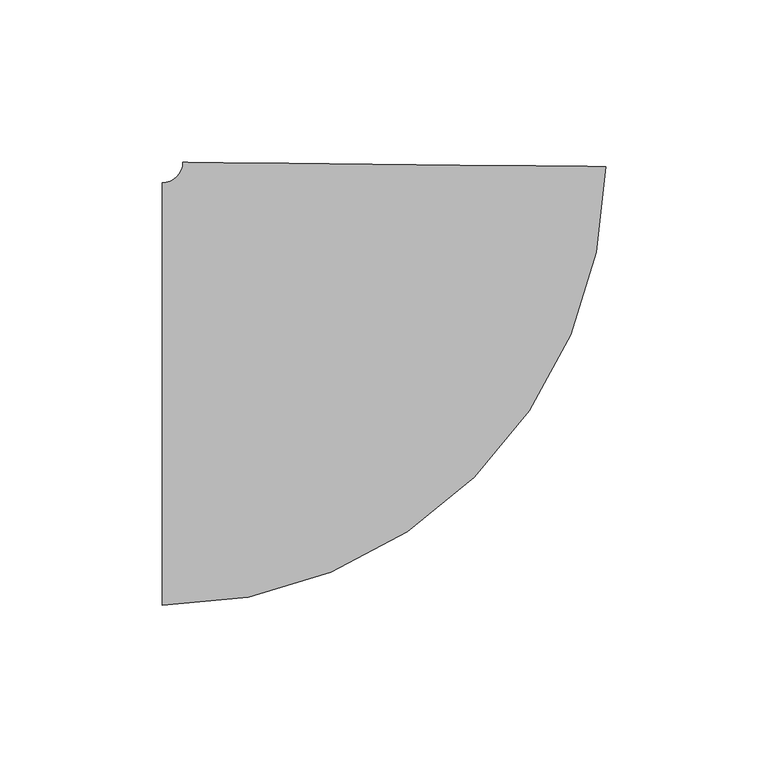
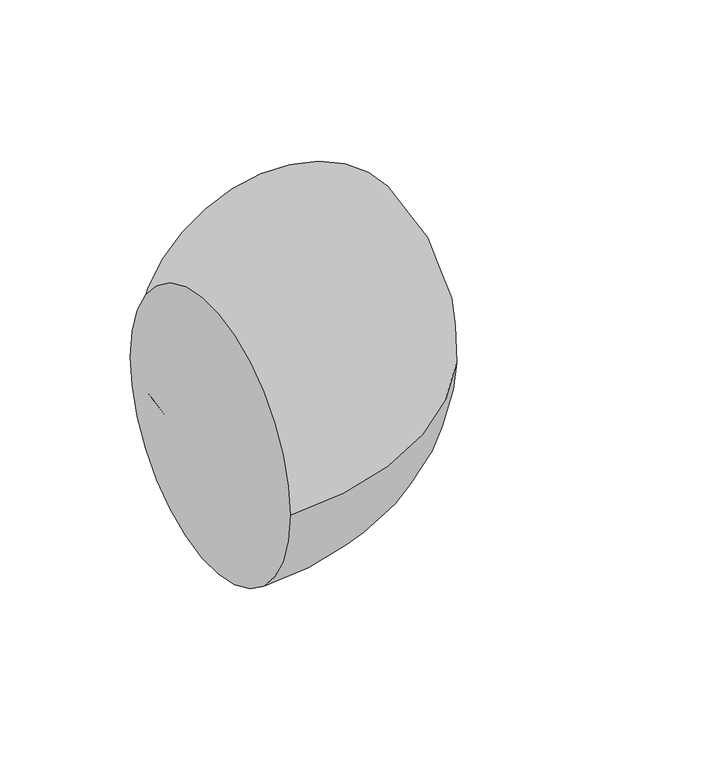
"""IFC4 building model written with IfcOpenShell, lengths in millimetres: pipe fitting geometry, M_Codo - Genérico : Estándar."""

from ifc_helpers import new_model, si_unit, point, frame, origin, place, context, project, spatial, circle_curve, ellipse_curve, trimmed, source, transform, mapped, element, save
from ifc_brep_helpers import plane_surface, revolved_surface, advanced_brep


def pipe_fitting_b362e658(model_context):
    return source(origin(), model_context, "Body", "AdvancedBrep", [
        advanced_brep(
        [(-70.7261027, -65.0875, 0.0), (-70.7261027, 65.0875, 0.0), (65.79206, 70.0711717, 0.0), (-64.3764208, 71.3739498, 0.0)],
        [
            (0, 1, circle_curve(frame((-70.7261027, 0.0, 0.0), z_axis=(-1.0, 0.0, 0.0), x_axis=(0.0, 1.0, 0.0)), 65.0875)),
            (1, 0, circle_curve(frame((-70.7261027, 0.0, 0.0), z_axis=(-1.0, 0.0, 0.0), x_axis=(0.0, 1.0, 0.0)), 65.0875)),
            (2, 3, circle_curve(frame((0.7078196, 70.7225608, 0.0), z_axis=(0.010007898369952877, 0.9999499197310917, 0.0), x_axis=(-0.9999499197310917, 0.010007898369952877, 0.0)), 65.0875)),
            (3, 2, circle_curve(frame((0.7078196, 70.7225608, 0.0), z_axis=(0.010007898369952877, 0.9999499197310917, 0.0), x_axis=(-0.9999499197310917, 0.010007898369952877, 0.0)), 65.0875)),
            (3, 1, circle_curve(frame((-70.7261027, 71.4375, 0.0), z_axis=(0.0, 0.0, -1.0), x_axis=(0.0, -1.0, 0.0)), 6.35)),
            (0, 2, circle_curve(frame((-70.7261027, 71.4375, 0.0), z_axis=(0.0, 0.0, 1.0), x_axis=(0.0, -1.0, 0.0)), 136.525)),
        ],
        [
            plane_surface(frame((-70.7261027, 0.0, 0.0), z_axis=(-1.0, 0.0, 0.0), x_axis=(0.0, 0.0, 1.0))),
            plane_surface(frame((0.7078196, 70.7225608, 0.0), z_axis=(0.01000789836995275, 0.9999499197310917, 0.0), x_axis=(0.0, 0.0, 1.0))),
            revolved_surface(trimmed(ellipse_curve(frame((-70.7261027, 0.0, 0.0), z_axis=(-1.0, 0.0, 0.0), x_axis=(0.0, 1.0, 0.0)), 65.0875, 65.0875), [point((-70.7261027, -65.0875, 0.0))], [point((-70.7261027, 65.0875, 0.0))], True, "CARTESIAN"), (-70.7261027, 71.4375, 0.0), (0.0, 0.0, 1.0)),
            revolved_surface(trimmed(ellipse_curve(frame((-70.7261027, 0.0, 0.0), z_axis=(-1.0, 0.0, 0.0), x_axis=(0.0, 1.0, 0.0)), 65.0875, 65.0875), [point((-70.7261027, 65.0875, 0.0))], [point((-70.7261027, -65.0875, 0.0))], True, "CARTESIAN"), (-70.7261027, 71.4375, 0.0), (0.0, 0.0, 1.0)),
        ],
        [
            (0, [[1, 2]]),
            (1, [[3, 4]]),
            (2, [[5, -1, 6, -4]]),
            (3, [[-6, -2, -5, -3]]),
        ],
    ),
    ])


if __name__ == "__main__":
    model = new_model("IFC4")
    model_context = context("Model", 3, world=origin())
    ifc_project = project(units=[si_unit("LENGTHUNIT", "METRE", prefix="MILLI")], contexts=[model_context])
    site = spatial("IfcSite", under=ifc_project)
    building = spatial("IfcBuilding", under=site)
    placement = place(None, origin())
    pipe_fitting_shape = pipe_fitting_b362e658(model_context)
    element("IfcPipeFitting", 1, ObjectType="M_Codo - Genérico : Estándar", at=placement, inside=building, context=model_context, shape_type="MappedRepresentation", body=[
        mapped(pipe_fitting_shape, transform((0.0, 0.0, 0.0), x_axis=(1.0, 0.0, 0.0), y_axis=(0.0, 1.0, 0.0), z_axis=(0.0, 0.0, 1.0))),
    ])
    save(model, "model.ifc")
